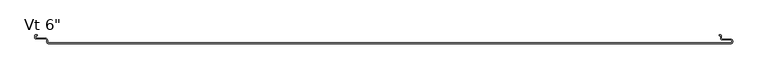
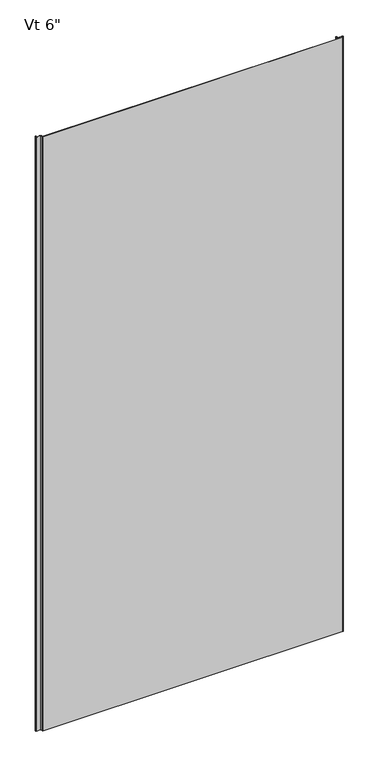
"""IFC4 building model written with IfcOpenShell, lengths in millimetres: plate geometry."""

import ifcopenshell
import ifcopenshell.guid

model = None  # the IFC model being written
_history = None  # IfcOwnerHistory: only IFC2X3 demands one
_inside = {}  # id of a spatial element -> (the spatial element, [elements in it])
_under = {}  # id of a project, library or spatial element -> (it, [spatial elements below it])
_declared = {}  # id of a project -> (the project, [libraries it declares])
_typed = {}  # id of a type object -> (the type object, [elements of that type])
_made_of = {}  # id of a material, layer set ... -> (it, [elements and type objects made of it])


def new_model(schema):
    """Start an empty IFC model of exactly this schema.

    Asked for "IFC4X3", IfcOpenShell would pick the latest addendum, in which some entities
    have other attributes; the version numbers below select the first issue.
    IFC2X3 requires an IfcOwnerHistory on every rooted entity: one is made here for all.
    """
    global model, _history
    if schema == "IFC4X3":
        model = ifcopenshell.file(schema_version=(4, 3, 0, 0))
    else:
        model = ifcopenshell.file(schema=schema)
    _inside.clear()
    _under.clear()
    _declared.clear()
    _typed.clear()
    _made_of.clear()
    _history = None
    if model.schema == "IFC2X3":
        org = make("IfcOrganization", Name="unknown")
        user = make(
            "IfcPersonAndOrganization",
            ThePerson=make("IfcPerson", FamilyName="unknown"),
            TheOrganization=org,
        )
        app = make(
            "IfcApplication",
            ApplicationDeveloper=org,
            Version="unknown",
            ApplicationFullName="unknown",
            ApplicationIdentifier="unknown",
        )
        _history = make(
            "IfcOwnerHistory",
            OwningUser=user,
            OwningApplication=app,
            ChangeAction="ADDED",
            CreationDate=0,
        )
    return model


def make(cls, **values):
    """One entity of the class cls with the attributes given. An attribute that is None is left unset."""
    return model.create_entity(
        cls, **{name: value for name, value in values.items() if value is not None}
    )


def rooted(cls, **values):
    """An entity with a GlobalId (a new one), such as an element, a storey or a relation."""
    return make(cls, GlobalId=ifcopenshell.guid.new(), OwnerHistory=_history, **values)


def si_unit(unit_type, name, prefix=None):
    """IfcSIUnit, for example si_unit("LENGTHUNIT", "METRE", prefix="MILLI")."""
    return make("IfcSIUnit", UnitType=unit_type, Prefix=prefix, Name=name)


def assignment(units):
    """IfcUnitAssignment: the units of a project."""
    return None if units is None else make("IfcUnitAssignment", Units=units)


def point(xyz):
    """IfcCartesianPoint."""
    return None if xyz is None else make("IfcCartesianPoint", Coordinates=xyz)


def direction(xyz):
    """IfcDirection."""
    return None if xyz is None else make("IfcDirection", DirectionRatios=xyz)


def frame(location, z_axis=None, x_axis=None):
    """IfcAxis2Placement3D, a coordinate frame: its origin and axes. An axis left out is left unset."""
    return make(
        "IfcAxis2Placement3D",
        Location=point(location),
        Axis=direction(z_axis),
        RefDirection=direction(x_axis),
    )


def origin():
    """The frame at (0, 0, 0) with its axes left unset."""
    return frame((0.0, 0.0, 0.0))


def place(relative_to, where):
    """IfcLocalPlacement: puts the frame where relative to a parent placement (None: the world)."""
    return make(
        "IfcLocalPlacement", PlacementRelTo=relative_to, RelativePlacement=where
    )


def context(
    kind, dimensions, precision=None, world=None, true_north=None, identifier=None
):
    """IfcGeometricRepresentationContext, for example the 3D "Model" context."""
    return make(
        "IfcGeometricRepresentationContext",
        ContextIdentifier=identifier,
        ContextType=kind,
        CoordinateSpaceDimension=dimensions,
        Precision=precision,
        WorldCoordinateSystem=world,
        TrueNorth=true_north,
    )


def project(units=None, contexts=None):
    """IfcProject with its units and contexts."""
    return rooted(
        "IfcProject",
        Name="project",
        RepresentationContexts=contexts,
        UnitsInContext=assignment(units),
    )


def spatial(cls, under=None, at=None, **own):
    """A site, building, storey or space (cls), placed at a placement, below another one or the project."""
    s = rooted(cls, ObjectPlacement=at, **own)
    if under is not None:
        _under.setdefault(under.id(), (under, []))[1].append(s)
    return s


def polyline(points):
    """IfcPolyline through the points."""
    return make("IfcPolyline", Points=[point(p) for p in points])


def circle_curve(where, radius):
    """IfcCircle in the frame where."""
    return make("IfcCircle", Position=where, Radius=radius)


def shape(context_of_items, identifier, shape_type, items):
    """IfcShapeRepresentation: the items that make up one representation, for example the "Body"."""
    return make(
        "IfcShapeRepresentation",
        ContextOfItems=context_of_items,
        RepresentationIdentifier=identifier,
        RepresentationType=shape_type,
        Items=items,
    )


def source(mapping_origin, context_of_items, identifier, shape_type, items):
    """IfcRepresentationMap: a shape defined once, which mapped items show again and again."""
    return make(
        "IfcRepresentationMap",
        MappingOrigin=mapping_origin,
        MappedRepresentation=shape(context_of_items, identifier, shape_type, items),
    )


def transform(
    local_origin,
    x_axis=None,
    y_axis=None,
    z_axis=None,
    scale=None,
    scale2=None,
    scale3=None,
    uniform=True,
):
    """IfcCartesianTransformationOperator3D, or its non-uniform kind. x_axis, y_axis, z_axis: its Axis1, 2, 3."""
    if uniform:
        return make(
            "IfcCartesianTransformationOperator3D",
            Axis1=direction(x_axis),
            Axis2=direction(y_axis),
            LocalOrigin=point(local_origin),
            Scale=scale,
            Axis3=direction(z_axis),
        )
    return make(
        "IfcCartesianTransformationOperator3DnonUniform",
        Axis1=direction(x_axis),
        Axis2=direction(y_axis),
        LocalOrigin=point(local_origin),
        Scale=scale,
        Axis3=direction(z_axis),
        Scale2=scale2,
        Scale3=scale3,
    )


def mapped(mapping_source, mapping_target):
    """IfcMappedItem: shows the shape of a source again, moved by a transform."""
    return make(
        "IfcMappedItem", MappingSource=mapping_source, MappingTarget=mapping_target
    )


def made_of(thing, what):
    """Note that an element or type object is made of a material, layer set ...; save() writes the relation."""
    if what is not None:
        _made_of.setdefault(what.id(), (what, []))[1].append(thing)
    return thing


def element(
    cls,
    number,
    at=None,
    inside=None,
    cuts=None,
    type_object=None,
    material=None,
    context=None,
    identifier="Body",
    shape_type=None,
    held_by="IfcProductDefinitionShape",
    body=None,
    shapes=None,
    **own,
):
    """One element of the class cls, such as IfcWall. Its Tag is "e" and its number.

    at: its placement. inside: the storey or other place that contains it. cuts: it is an
    opening in that element (IfcRelVoidsElement). A single representation is given by context,
    identifier, shape_type and body (its items); several are given by shapes. held_by: the class
    of the entity that holds the representations. save() writes the other relations.
    """
    e = rooted(cls, Tag="e%d" % number, ObjectPlacement=at, **own)
    if body is not None:
        shapes = [shape(context, identifier, shape_type, body)]
    if shapes is not None:
        e.Representation = make(held_by, Representations=shapes)
    if inside is not None:
        _inside.setdefault(inside.id(), (inside, []))[1].append(e)
    if cuts is not None:
        rooted(
            "IfcRelVoidsElement", RelatingBuildingElement=cuts, RelatedOpeningElement=e
        )
    if type_object is not None:
        _typed.setdefault(type_object.id(), (type_object, []))[1].append(e)
    return made_of(e, material)


def aggregate(whole, parts):
    """IfcRelAggregates: a whole, such as a stair, and the parts it consists of."""
    return rooted("IfcRelAggregates", RelatingObject=whole, RelatedObjects=parts)


def save(model, path):
    """Write the relations noted so far, then the file.

    IfcRelAggregates (storeys below a building ...), IfcRelContainedInSpatialStructure (elements
    in a storey), IfcRelDefinesByType, IfcRelAssociatesMaterial and IfcRelDeclares: one each for
    every whole, place, type object, material and project.
    """
    for whole, parts in _under.values():
        aggregate(whole, parts)
    for where, things in _inside.values():
        rooted(
            "IfcRelContainedInSpatialStructure",
            RelatedElements=things,
            RelatingStructure=where,
        )
    for kind, things in _typed.values():
        rooted("IfcRelDefinesByType", RelatedObjects=things, RelatingType=kind)
    for what, things in _made_of.values():
        rooted("IfcRelAssociatesMaterial", RelatedObjects=things, RelatingMaterial=what)
    for by, libraries in _declared.values():
        rooted("IfcRelDeclares", RelatingContext=by, RelatedDefinitions=libraries)
    model.write(path)


def plane_surface(at):
    """IfcPlane: the flat surface through the origin of the frame at, square to its z axis."""
    return make("IfcPlane", Position=at)


def cylinder_surface(at, radius):
    """IfcCylindricalSurface: all points at the distance radius from the z axis of the frame at."""
    return make("IfcCylindricalSurface", Position=at, Radius=radius)


def revolved_surface(curve, axis_point, axis_direction):
    """IfcSurfaceOfRevolution: the curve turned about the line through axis_point along axis_direction."""
    return make(
        "IfcSurfaceOfRevolution",
        SweptCurve=make("IfcArbitraryOpenProfileDef", ProfileType="CURVE", Curve=curve),
        AxisPosition=make("IfcAxis1Placement", Location=point(axis_point), Axis=direction(axis_direction)),
    )


def advanced_brep(points, edges, surfaces, faces):
    """IfcAdvancedBrep: a solid bounded by faces that lie on surfaces and meet in shared edges.

    An edge is (start, end): straight between two places in points (the first is 0);
    or (start, end, curve); or (start, end, curve, False) where it runs against its curve.
    A face is (place in surfaces, loops), or (place, loops, False) where it looks against
    its surface's normal. A loop lists edges by number (the first is 1), with a minus sign
    where the edge is run from its end to its start. The first loop is the outer one.
    """
    corners = [point(p) for p in points]
    vertices = [make("IfcVertexPoint", VertexGeometry=c) for c in corners]
    made = []
    for start, end, *more in edges:
        made.append(
            make(
                "IfcEdgeCurve",
                EdgeStart=vertices[start],
                EdgeEnd=vertices[end],
                EdgeGeometry=more[0] if more else make("IfcPolyline", Points=[corners[start], corners[end]]),
                SameSense=more[1] if len(more) > 1 else True,
            )
        )
    hull = []
    for where, loops, *sense in faces:
        bounds = []
        for j, loop in enumerate(loops):
            ring = [make("IfcOrientedEdge", EdgeElement=made[abs(k) - 1], Orientation=k > 0) for k in loop]
            bounds.append(
                make(
                    "IfcFaceOuterBound" if j == 0 else "IfcFaceBound",
                    Bound=make("IfcEdgeLoop", EdgeList=ring),
                    Orientation=True,
                )
            )
        hull.append(make("IfcAdvancedFace", Bounds=bounds, FaceSurface=surfaces[where], SameSense=sense[0] if sense else True))
    return make("IfcAdvancedBrep", Outer=make("IfcClosedShell", CfsFaces=hull))


def plate_13c998c9(model_context):
    return source(origin(), model_context, "Body", "AdvancedBrep", [
        advanced_brep(
        [(-572.4123937, -149.4223811, 2400.0), (-572.4123937, -147.1308685, 2400.0), (-576.3897391, -143.1535232, 2400.0), (-591.9862514, -143.1535232, 2400.0), (-592.5741086, -142.565666, 2400.0), (-592.5741086, -139.4941346, 2400.0), (-591.9862374, -138.9062635, 2400.0), (-589.6312064, -138.9062635, 2400.0), (-589.6312064, -137.9062599, 2400.0), (-591.9862419, -137.9062599, 2400.0), (-593.5741185, -139.4941364, 2400.0), (-593.5741185, -142.5656851, 2400.0), (-591.9862419, -144.1535616, 2400.0), (-576.3898159, -144.1535616, 2400.0), (-573.4125474, -147.1308302, 2400.0), (-573.4125474, -149.422714, 2400.0), (-570.4352789, -152.3999825, 2400.0), (574.5475652, -152.4, 2400.0), (577.5248337, -149.4227315, 2400.0), (577.5248337, -148.3806329, 2400.0), (574.5475652, -145.4033644, 2400.0), (560.3591801, -145.4033644, 2400.0), (558.7713036, -143.8154878, 2400.0), (558.7713036, -139.4950697, 2400.0), (557.1304042, -137.9066023, 2400.0), (554.7857432, -137.9066023, 2400.0), (554.7857432, -138.9060472, 2400.0), (557.1628599, -138.9060472, 2400.0), (557.7713971, -139.4950842, 2400.0), (557.7713971, -143.8153166, 2400.0), (560.3590971, -146.4030166, 2400.0), (574.5482568, -146.4030166, 2400.0), (576.5262182, -148.380978, 2400.0), (576.5262182, -149.42341, 2400.0), (574.550337, -151.3992912, 2400.0), (-570.4354837, -151.3992912, 2400.0), (-572.4123937, -149.4223811, 0.0), (-570.4354837, -151.3992912, 0.0), (574.550337, -151.3992912, 0.0), (576.5262182, -149.42341, 0.0), (576.5262182, -148.380978, 0.0), (574.5482568, -146.4030166, 0.0), (560.3590971, -146.4030166, 0.0), (557.7713971, -143.8153166, 0.0), (557.7713971, -139.4950842, 0.0), (557.1628599, -138.9060472, 0.0), (554.7857432, -138.9060472, 0.0), (554.7857432, -137.9066023, 0.0), (557.1304042, -137.9066023, 0.0), (558.7713036, -139.4950697, 0.0), (558.7713036, -143.8154878, 0.0), (560.3591801, -145.4033644, 0.0), (574.5475652, -145.4033644, 0.0), (577.5248337, -148.3806329, 0.0), (577.5248337, -149.4227315, 0.0), (574.5475652, -152.4, 0.0), (-570.4352789, -152.4, 0.0), (-573.4125474, -149.422714, 0.0), (-573.4125474, -147.1308302, 0.0), (-576.3898159, -144.1535616, 0.0), (-591.9862419, -144.1535616, 0.0), (-593.5741185, -142.5656851, 0.0), (-593.5741185, -139.4941364, 0.0), (-591.9862419, -137.9062599, 0.0), (-589.6312064, -137.9062599, 0.0), (-589.6312064, -138.9062635, 0.0), (-591.9862374, -138.9062635, 0.0), (-592.5741086, -139.4941346, 0.0), (-592.5741086, -142.565666, 0.0), (-591.9862514, -143.1535232, 0.0), (-576.3897391, -143.1535232, 0.0), (-572.4123937, -147.1308685, 0.0)],
        [
            (0, 1),
            (1, 2, circle_curve(frame((-576.3897391, -147.1308685, 2400.0), z_axis=(0.0, 0.0, 1.0), x_axis=(-1.0, 0.0, 0.0)), 3.9773454)),
            (2, 3),
            (3, 4, circle_curve(frame((-591.9862514, -142.565666, 2400.0), z_axis=(0.0, 0.0, -1.0), x_axis=(-1.0, 0.0, 0.0)), 0.5878572)),
            (4, 5),
            (5, 6, circle_curve(frame((-591.9862374, -139.4941346, 2400.0), z_axis=(0.0, 0.0, -1.0), x_axis=(-1.0, 0.0, 0.0)), 0.5878711)),
            (6, 7),
            (7, 8),
            (8, 9),
            (9, 10, circle_curve(frame((-591.9862419, -139.4941364, 2400.0), z_axis=(0.0, 0.0, 1.0), x_axis=(-1.0, 0.0, 0.0)), 1.5878765)),
            (10, 11),
            (11, 12, circle_curve(frame((-591.9862419, -142.5656851, 2400.0), z_axis=(0.0, 0.0, 1.0), x_axis=(-1.0, 0.0, 0.0)), 1.5878765)),
            (12, 13),
            (13, 14, circle_curve(frame((-576.3898159, -147.1308302, 2400.0), z_axis=(0.0, 0.0, -1.0), x_axis=(-1.0, 0.0, 0.0)), 2.9772685)),
            (14, 15),
            (15, 16, circle_curve(frame((-570.4352789, -149.422714, 2400.0), z_axis=(0.0, 0.0, 1.0), x_axis=(-1.0, 0.0, 0.0)), 2.9772685)),
            (16, 17),
            (17, 18, circle_curve(frame((574.5475652, -149.4227315, 2400.0), z_axis=(0.0, 0.0, 1.0), x_axis=(-1.0, 0.0, 0.0)), 2.9772685)),
            (18, 19),
            (19, 20, circle_curve(frame((574.5475652, -148.3806329, 2400.0), z_axis=(0.0, 0.0, 1.0), x_axis=(-1.0, 0.0, 0.0)), 2.9772685)),
            (20, 21),
            (21, 22, circle_curve(frame((560.3591801, -143.8154878, 2400.0), z_axis=(0.0, 0.0, -1.0), x_axis=(-1.0, 0.0, 0.0)), 1.5878765)),
            (22, 23),
            (23, 24, circle_curve(frame((557.1819985, -139.4950697, 2400.0), z_axis=(0.0, 0.0, 1.0), x_axis=(-1.0, 0.0, 0.0)), 1.5893051)),
            (24, 25),
            (25, 26),
            (26, 27),
            (27, 28, circle_curve(frame((557.1820477, -139.4950842, 2400.0), z_axis=(0.0, 0.0, -1.0), x_axis=(-1.0, 0.0, 0.0)), 0.5893495)),
            (28, 29),
            (29, 30, circle_curve(frame((560.3590971, -143.8153166, 2400.0), z_axis=(0.0, 0.0, 1.0), x_axis=(-1.0, 0.0, 0.0)), 2.5877)),
            (30, 31),
            (31, 32, circle_curve(frame((574.5482568, -148.380978, 2400.0), z_axis=(0.0, 0.0, -1.0), x_axis=(-1.0, 0.0, 0.0)), 1.9779614)),
            (32, 33),
            (33, 34, circle_curve(frame((574.550337, -149.42341, 2400.0), z_axis=(0.0, 0.0, -1.0), x_axis=(-1.0, 0.0, 0.0)), 1.9758812)),
            (34, 35),
            (35, 0, circle_curve(frame((-570.4354837, -149.4223811, 2400.0), z_axis=(0.0, 0.0, -1.0), x_axis=(-1.0, 0.0, 0.0)), 1.9769101)),
            (36, 37, circle_curve(frame((-570.4354837, -149.4223811, 0.0), z_axis=(0.0, 0.0, 1.0), x_axis=(-1.0, 0.0, 0.0)), 1.9769101)),
            (37, 38),
            (38, 39, circle_curve(frame((574.550337, -149.42341, 0.0), z_axis=(0.0, 0.0, 1.0), x_axis=(-1.0, 0.0, 0.0)), 1.9758812)),
            (39, 40),
            (40, 41, circle_curve(frame((574.5482568, -148.380978, 0.0), z_axis=(0.0, 0.0, 1.0), x_axis=(-1.0, 0.0, 0.0)), 1.9779614)),
            (41, 42),
            (42, 43, circle_curve(frame((560.3590971, -143.8153166, 0.0), z_axis=(0.0, 0.0, -1.0), x_axis=(-1.0, 0.0, 0.0)), 2.5877)),
            (43, 44),
            (44, 45, circle_curve(frame((557.1820477, -139.4950842, 0.0), z_axis=(0.0, 0.0, 1.0), x_axis=(-1.0, 0.0, 0.0)), 0.5893495)),
            (45, 46),
            (46, 47),
            (47, 48),
            (48, 49, circle_curve(frame((557.1819985, -139.4950697, 0.0), z_axis=(0.0, 0.0, -1.0), x_axis=(-1.0, 0.0, 0.0)), 1.5893051)),
            (49, 50),
            (50, 51, circle_curve(frame((560.3591801, -143.8154878, 0.0), z_axis=(0.0, 0.0, 1.0), x_axis=(-1.0, 0.0, 0.0)), 1.5878765)),
            (51, 52),
            (52, 53, circle_curve(frame((574.5475652, -148.3806329, 0.0), z_axis=(0.0, 0.0, -1.0), x_axis=(-1.0, 0.0, 0.0)), 2.9772685)),
            (53, 54),
            (54, 55, circle_curve(frame((574.5475652, -149.4227315, 0.0), z_axis=(0.0, 0.0, -1.0), x_axis=(-1.0, 0.0, 0.0)), 2.9772685)),
            (55, 56),
            (56, 57, circle_curve(frame((-570.4352789, -149.422714, 0.0), z_axis=(0.0, 0.0, -1.0), x_axis=(-1.0, 0.0, 0.0)), 2.9772685)),
            (57, 58),
            (58, 59, circle_curve(frame((-576.3898159, -147.1308302, 0.0), z_axis=(0.0, 0.0, 1.0), x_axis=(-1.0, 0.0, 0.0)), 2.9772685)),
            (59, 60),
            (60, 61, circle_curve(frame((-591.9862419, -142.5656851, 0.0), z_axis=(0.0, 0.0, -1.0), x_axis=(-1.0, 0.0, 0.0)), 1.5878765)),
            (61, 62),
            (62, 63, circle_curve(frame((-591.9862419, -139.4941364, 0.0), z_axis=(0.0, 0.0, -1.0), x_axis=(-1.0, 0.0, 0.0)), 1.5878765)),
            (63, 64),
            (64, 65),
            (65, 66),
            (66, 67, circle_curve(frame((-591.9862374, -139.4941346, 0.0), z_axis=(0.0, 0.0, 1.0), x_axis=(-1.0, 0.0, 0.0)), 0.5878711)),
            (67, 68),
            (68, 69, circle_curve(frame((-591.9862514, -142.565666, 0.0), z_axis=(0.0, 0.0, 1.0), x_axis=(-1.0, 0.0, 0.0)), 0.5878572)),
            (69, 70),
            (70, 71, circle_curve(frame((-576.3897391, -147.1308685, 0.0), z_axis=(0.0, 0.0, -1.0), x_axis=(-1.0, 0.0, 0.0)), 3.9773454)),
            (71, 36),
            (23, 49),
            (48, 24),
            (22, 50),
            (21, 51),
            (20, 52),
            (19, 53),
            (17, 55),
            (54, 18),
            (32, 40),
            (39, 33),
            (38, 34),
            (16, 56),
            (37, 35),
            (36, 0),
            (71, 1),
            (70, 2),
            (69, 3),
            (4, 68),
            (67, 5),
            (66, 6),
            (65, 7),
            (64, 8),
            (63, 9),
            (62, 10),
            (61, 11),
            (60, 12),
            (59, 13),
            (58, 14),
            (57, 15),
            (31, 41),
            (30, 42),
            (29, 43),
            (28, 44),
            (27, 45),
            (26, 46),
            (25, 47),
        ],
        [
            plane_surface(frame((0.0, -152.4, 2400.0), z_axis=(0.0, 0.0, 1.0), x_axis=(0.0, -1.0, 0.0))),
            plane_surface(frame((0.0, -152.4, 0.0), z_axis=(0.0, 0.0, -1.0), x_axis=(0.0, -1.0, 0.0))),
            cylinder_surface(frame((557.1819985, -139.4950697, 2400.0), z_axis=(0.0, 0.0, 1.0), x_axis=(-1.0, 0.0, 0.0)), 1.5893051),
            plane_surface(frame((558.7713036, -139.4950697, 2400.0), z_axis=(1.0, 0.0, 0.0), x_axis=(0.0, 0.0, -1.0))),
            revolved_surface(polyline([(558.7713036, -143.8154878, 0.0), (558.7713036, -143.8154878, 2400.0)]), (560.3591801, -143.8154878, 2400.0), (0.0, 0.0, -1.0)),
            plane_surface(frame((560.3591801, -145.4033644, 2400.0), z_axis=(0.0, 1.0, 0.0), x_axis=(0.0, 0.0, -1.0))),
            cylinder_surface(frame((574.5475652, -148.3806329, 2400.0), z_axis=(0.0, 0.0, 1.0), x_axis=(-1.0, 0.0, 0.0)), 2.9772685),
            cylinder_surface(frame((574.5475652, -149.4227315, 2400.0), z_axis=(0.0, 0.0, 1.0), x_axis=(-1.0, 0.0, 0.0)), 2.9772685),
            plane_surface(frame((576.5262182, -149.42341, 2400.0), z_axis=(-1.0, 0.0, 0.0), x_axis=(0.0, 0.0, -1.0))),
            plane_surface(frame((577.5248337, -148.3806329, 2400.0), z_axis=(1.0, 0.0, 0.0), x_axis=(0.0, 0.0, -1.0))),
            revolved_surface(polyline([(572.5744558, -149.42341, 0.0), (572.5744558, -149.42341, 2400.0)]), (574.550337, -149.42341, 2400.0), (0.0, 0.0, -1.0)),
            plane_surface(frame((574.5475652, -152.4, 2400.0), z_axis=(0.0, -1.0, 0.0), x_axis=(0.0, 0.0, -1.0))),
            plane_surface(frame((-570.4354837, -151.3992912, 2400.0), z_axis=(0.0, 1.0, 0.0), x_axis=(0.0, 0.0, -1.0))),
            revolved_surface(polyline([(-572.4123938, -149.4223811, 0.0), (-572.4123938, -149.4223811, 2400.0)]), (-570.4354837, -149.4223811, 2400.0), (0.0, 0.0, -1.0)),
            plane_surface(frame((-572.4123937, -147.1308685, 2400.0), z_axis=(1.0, 0.0, 0.0), x_axis=(0.0, 0.0, -1.0))),
            cylinder_surface(frame((-576.3897391, -147.1308685, 2400.0), z_axis=(0.0, 0.0, 1.0), x_axis=(-1.0, 0.0, 0.0)), 3.9773454),
            plane_surface(frame((-591.9862514, -143.1535232, 2400.0), z_axis=(0.0, 1.0, 0.0), x_axis=(0.0, 0.0, -1.0))),
            plane_surface(frame((-592.5741086, -139.4941346, 2400.0), z_axis=(1.0, 0.0, 0.0), x_axis=(0.0, 0.0, -1.0))),
            revolved_surface(polyline([(-592.5741085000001, -139.4941346, 0.0), (-592.5741085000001, -139.4941346, 2400.0)]), (-591.9862374, -139.4941346, 2400.0), (0.0, 0.0, -1.0)),
            plane_surface(frame((-589.6312064, -138.9062635, 2400.0), z_axis=(0.0, -1.0, 0.0), x_axis=(0.0, 0.0, -1.0))),
            plane_surface(frame((-589.6312064, -137.9062599, 2400.0), z_axis=(1.0, 0.0, 0.0), x_axis=(0.0, 0.0, -1.0))),
            plane_surface(frame((-591.9862419, -137.9062599, 2400.0), z_axis=(0.0, 1.0, 0.0), x_axis=(0.0, 0.0, -1.0))),
            cylinder_surface(frame((-591.9862419, -139.4941364, 2400.0), z_axis=(0.0, 0.0, 1.0), x_axis=(-1.0, 0.0, 0.0)), 1.5878765),
            plane_surface(frame((-593.5741185, -142.5656851, 2400.0), z_axis=(-1.0, 0.0, 0.0), x_axis=(0.0, 0.0, -1.0))),
            cylinder_surface(frame((-591.9862419, -142.5656851, 2400.0), z_axis=(0.0, 0.0, 1.0), x_axis=(-1.0, 0.0, 0.0)), 1.5878765),
            plane_surface(frame((-576.3898159, -144.1535616, 2400.0), z_axis=(0.0, -1.0, 0.0), x_axis=(0.0, 0.0, -1.0))),
            revolved_surface(polyline([(-579.3670844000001, -147.1308302, 0.0), (-579.3670844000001, -147.1308302, 2400.0)]), (-576.3898159, -147.1308302, 2400.0), (0.0, 0.0, -1.0)),
            plane_surface(frame((-573.4125474, -149.422714, 2400.0), z_axis=(-1.0, 0.0, 0.0), x_axis=(0.0, 0.0, -1.0))),
            cylinder_surface(frame((-570.4352789, -149.422714, 2400.0), z_axis=(0.0, 0.0, 1.0), x_axis=(-1.0, 0.0, 0.0)), 2.9772685),
            revolved_surface(polyline([(-592.5741086, -142.565666, 0.0), (-592.5741086, -142.565666, 2400.0)]), (-591.9862514, -142.565666, 2400.0), (0.0, 0.0, -1.0)),
            revolved_surface(polyline([(572.5702954, -148.380978, 0.0), (572.5702954, -148.380978, 2400.0)]), (574.5482568, -148.380978, 2400.0), (0.0, 0.0, -1.0)),
            plane_surface(frame((574.5482568, -146.4030166, 2400.0), z_axis=(0.0, -1.0, 0.0), x_axis=(0.0, 0.0, -1.0))),
            cylinder_surface(frame((560.3590971, -143.8153166, 2400.0), z_axis=(0.0, 0.0, 1.0), x_axis=(-1.0, 0.0, 0.0)), 2.5877),
            plane_surface(frame((557.7713971, -143.8153166, 2400.0), z_axis=(-1.0, 0.0, 0.0), x_axis=(0.0, 0.0, -1.0))),
            revolved_surface(polyline([(556.5926982, -139.4950842, 0.0), (556.5926982, -139.4950842, 2400.0)]), (557.1820477, -139.4950842, 2400.0), (0.0, 0.0, -1.0)),
            plane_surface(frame((557.1628599, -138.9060472, 2400.0), z_axis=(0.0, -1.0, 0.0), x_axis=(0.0, 0.0, -1.0))),
            plane_surface(frame((554.7857432, -138.9060472, 2400.0), z_axis=(-1.0, 0.0, 0.0), x_axis=(0.0, 0.0, -1.0))),
            plane_surface(frame((554.7857432, -137.9066023, 2400.0), z_axis=(0.0, 1.0, 0.0), x_axis=(0.0, 0.0, -1.0))),
        ],
        [
            (0, [[1, 2, 3, 4, 5, 6, 7, 8, 9, 10, 11, 12, 13, 14, 15, 16, 17, 18, 19, 20, 21, 22, 23, 24, 25, 26, 27, 28, 29, 30, 31, 32, 33, 34, 35, 36]]),
            (1, [[37, 38, 39, 40, 41, 42, 43, 44, 45, 46, 47, 48, 49, 50, 51, 52, 53, 54, 55, 56, 57, 58, 59, 60, 61, 62, 63, 64, 65, 66, 67, 68, 69, 70, 71, 72]]),
            (2, [[73, -49, 74, -24]]),
            (3, [[75, -50, -73, -23]]),
            (4, [[76, -51, -75, -22]]),
            (5, [[77, -52, -76, -21]]),
            (6, [[78, -53, -77, -20]]),
            (7, [[79, -55, 80, -18]]),
            (8, [[81, -40, 82, -33]]),
            (9, [[-80, -54, -78, -19]]),
            (10, [[-82, -39, 83, -34]]),
            (11, [[84, -56, -79, -17]]),
            (12, [[-83, -38, 85, -35]]),
            (13, [[-85, -37, 86, -36]]),
            (14, [[-86, -72, 87, -1]]),
            (15, [[-87, -71, 88, -2]]),
            (16, [[-88, -70, 89, -3]]),
            (17, [[90, -68, 91, -5]]),
            (18, [[-91, -67, 92, -6]]),
            (19, [[-92, -66, 93, -7]]),
            (20, [[-93, -65, 94, -8]]),
            (21, [[-94, -64, 95, -9]]),
            (22, [[-95, -63, 96, -10]]),
            (23, [[-96, -62, 97, -11]]),
            (24, [[-97, -61, 98, -12]]),
            (25, [[-98, -60, 99, -13]]),
            (26, [[-99, -59, 100, -14]]),
            (27, [[-100, -58, 101, -15]]),
            (28, [[-101, -57, -84, -16]]),
            (29, [[-89, -69, -90, -4]]),
            (30, [[102, -41, -81, -32]]),
            (31, [[103, -42, -102, -31]]),
            (32, [[104, -43, -103, -30]]),
            (33, [[105, -44, -104, -29]]),
            (34, [[106, -45, -105, -28]]),
            (35, [[107, -46, -106, -27]]),
            (36, [[108, -47, -107, -26]]),
            (37, [[-74, -48, -108, -25]]),
        ],
    ),
    ])


if __name__ == "__main__":
    model = new_model("IFC4")
    model_context = context("Model", 3, world=origin())
    ifc_project = project(units=[si_unit("LENGTHUNIT", "METRE", prefix="MILLI")], contexts=[model_context])
    site = spatial("IfcSite", under=ifc_project)
    building = spatial("IfcBuilding", under=site)
    placement = place(None, origin())
    plate_shape = plate_13c998c9(model_context)
    element("IfcPlate", 1, ObjectType="KIP-SLI-FLI-R19-CP-Vt-FL_SL : Vt 6\"", at=placement, inside=building, context=model_context, shape_type="MappedRepresentation", body=[
        mapped(plate_shape, transform((0.0, 0.0, 0.0), x_axis=(1.0, 0.0, 0.0), y_axis=(0.0, 1.0, 0.0), z_axis=(0.0, 0.0, 1.0))),
    ])
    save(model, "model.ifc")
